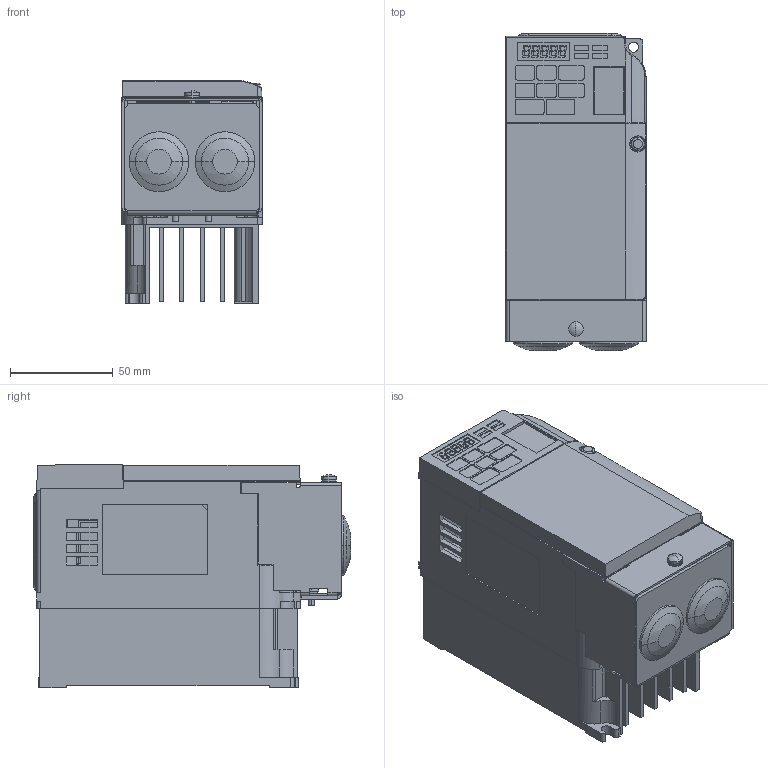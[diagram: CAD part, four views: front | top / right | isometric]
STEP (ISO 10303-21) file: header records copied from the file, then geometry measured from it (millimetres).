
FILE_DESCRIPTION((''),'2;1');
FILE_NAME('VU2A0004FAA_ASM','2009-08-10T',('Proe4321'),(''),'PRO/ENGINEER BY PARAMETRIC TECHNOLOGY CORPORATION, 2007250','PRO/ENGINEER BY PARAMETRIC TECHNOLOGY CORPORATION, 2007250','');
FILE_SCHEMA(('CONFIG_CONTROL_DESIGN'));
Products named in the file (9): VU2A0004FAA_BASE; VU2A0004FAA_COVER1; VU2A0004FAA_COVER2; VU2A0004FAA_COVER3; VU2A0004FAA_COVER4; VU2A0004FAA_COVER5; VU2A0004FAA_COVER6; VU2A0004FAA_GROMMET1; VU2A0004FAA_ASM
Assembly tree (9 placements, depth 2):
  VU2A0004FAA_ASM
    VU2A0004FAA_BASE
    VU2A0004FAA_COVER1
    VU2A0004FAA_COVER2
    VU2A0004FAA_COVER3
    VU2A0004FAA_COVER4
    VU2A0004FAA_COVER5
    VU2A0004FAA_COVER6
    VU2A0004FAA_GROMMET1  x2
Bounding box: 68 x 153.92 x 108.35 mm (x, y, z)
Volume: 289720.9 mm3; surface area: 230589 mm2
Topology: 9 solids, 9 shells, 3651 faces, 9795 edges, 6385 vertices
Faces by surface type: plane 2865, cylinder 562, extrusion 105, torus 62, sphere 36, cone 19, bspline 2
Entity records: 113611 total; most frequent: CARTESIAN_POINT 21712, ORIENTED_EDGE 19466, DIRECTION 18036, EDGE_CURVE 9733, VECTOR 7994, LINE 7889, VERTEX_POINT 6367, AXIS2_PLACEMENT_3D 5021
